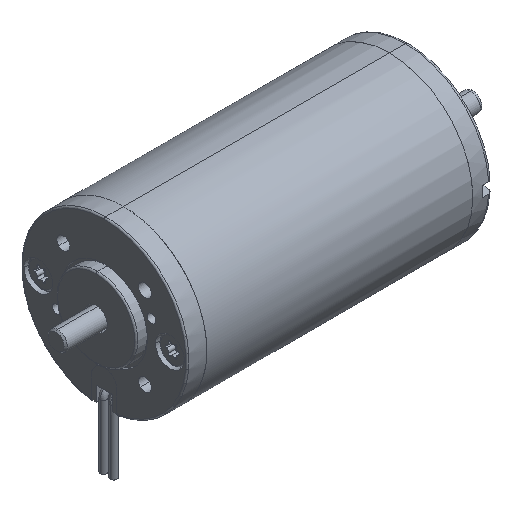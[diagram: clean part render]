
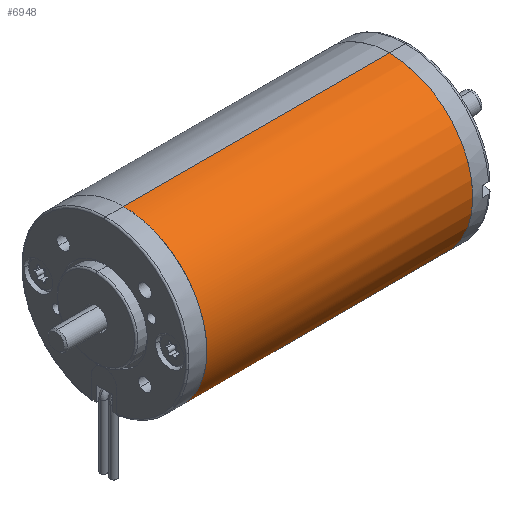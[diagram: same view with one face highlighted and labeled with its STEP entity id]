
A CAD part, isometric view. The second image highlights one B-rep face of the part: STEP entity #6948.
In plain terms, the highlighted cylindrical face has radius 26.005 mm (diameter 52.01 mm), a partial arc.
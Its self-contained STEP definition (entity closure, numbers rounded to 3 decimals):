
#59 = EDGE_CURVE ( 'NONE', #6488, #2002, #758, .T. ) ;
#301 = DIRECTION ( 'NONE',  ( 1., 0., 0. ) ) ;
#497 = LINE ( 'NONE', #6906, #6567 ) ;
#758 = LINE ( 'NONE', #3141, #2262 ) ;
#1371 = DIRECTION ( 'NONE',  ( 0., 0., 1. ) ) ;
#1453 = CIRCLE ( 'NONE', #7243, 26.005 ) ;
#1554 = VERTEX_POINT ( 'NONE', #3235 ) ;
#1624 = DIRECTION ( 'NONE',  ( 1., 0., 0. ) ) ;
#1806 = ORIENTED_EDGE ( 'NONE', *, *, #2247, .T. ) ;
#2002 = VERTEX_POINT ( 'NONE', #2375 ) ;
#2185 = FACE_OUTER_BOUND ( 'NONE', #3829, .T. ) ;
#2247 = EDGE_CURVE ( 'NONE', #1554, #3973, #497, .T. ) ;
#2262 = VECTOR ( 'NONE', #2568, 1000. ) ;
#2375 = CARTESIAN_POINT ( 'NONE',  ( -89., 0., 26.005 ) ) ;
#2568 = DIRECTION ( 'NONE',  ( -1., 0., 0. ) ) ;
#2714 = CARTESIAN_POINT ( 'NONE',  ( -6., 0., 26.005 ) ) ;
#2811 = CARTESIAN_POINT ( 'NONE',  ( -6., 0., -26.005 ) ) ;
#3141 = CARTESIAN_POINT ( 'NONE',  ( -47.5, 0., 26.005 ) ) ;
#3235 = CARTESIAN_POINT ( 'NONE',  ( -89., 0., -26.005 ) ) ;
#3337 = EDGE_CURVE ( 'NONE', #1554, #2002, #5479, .T. ) ;
#3356 = DIRECTION ( 'NONE',  ( -1., 0., 0. ) ) ;
#3829 = EDGE_LOOP ( 'NONE', ( #4992, #7634, #1806, #6375 ) ) ;
#3973 = VERTEX_POINT ( 'NONE', #2811 ) ;
#4457 = CARTESIAN_POINT ( 'NONE',  ( -47.5, 0., 0. ) ) ;
#4469 = CARTESIAN_POINT ( 'NONE',  ( -89., 0., 0. ) ) ;
#4908 = CARTESIAN_POINT ( 'NONE',  ( -6., 0., 0. ) ) ;
#4992 = ORIENTED_EDGE ( 'NONE', *, *, #59, .T. ) ;
#5479 = CIRCLE ( 'NONE', #5974, 26.005 ) ;
#5974 = AXIS2_PLACEMENT_3D ( 'NONE', #4469, #3356, #6819 ) ;
#6231 = DIRECTION ( 'NONE',  ( -1., 0., 0. ) ) ;
#6375 = ORIENTED_EDGE ( 'NONE', *, *, #6530, .F. ) ;
#6488 = VERTEX_POINT ( 'NONE', #2714 ) ;
#6530 = EDGE_CURVE ( 'NONE', #6488, #3973, #1453, .T. ) ;
#6567 = VECTOR ( 'NONE', #1624, 1000. ) ;
#6819 = DIRECTION ( 'NONE',  ( 0., 0., 1. ) ) ;
#6879 = CYLINDRICAL_SURFACE ( 'NONE', #7255, 26.005 ) ;
#6906 = CARTESIAN_POINT ( 'NONE',  ( -47.5, 0., -26.005 ) ) ;
#6948 = ADVANCED_FACE ( 'NONE', ( #2185 ), #6879, .T. ) ;
#7243 = AXIS2_PLACEMENT_3D ( 'NONE', #4908, #301, #1371 ) ;
#7255 = AXIS2_PLACEMENT_3D ( 'NONE', #4457, #6231, #7545 ) ;
#7545 = DIRECTION ( 'NONE',  ( 0., 0., 1. ) ) ;
#7634 = ORIENTED_EDGE ( 'NONE', *, *, #3337, .F. ) ;
